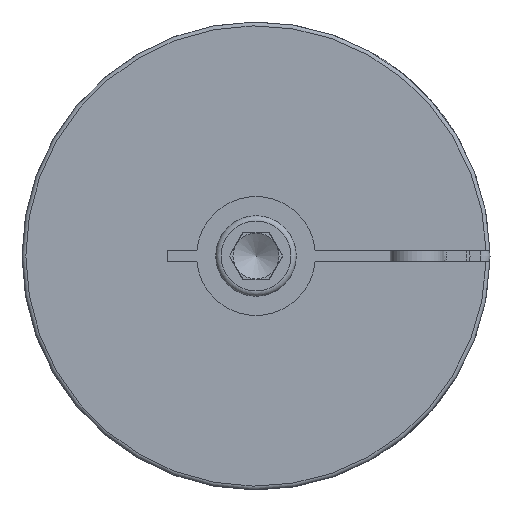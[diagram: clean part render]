
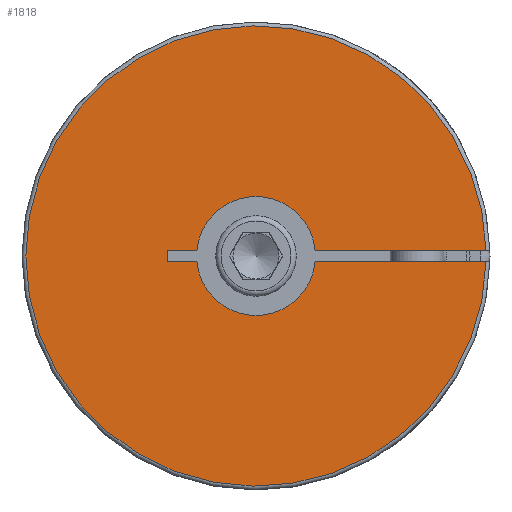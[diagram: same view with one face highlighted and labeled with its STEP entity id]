
A CAD part, left-side view. The second image highlights one B-rep face of the part: STEP entity #1818.
In plain terms, the highlighted planar face has unit normal (-1, 0, 0).
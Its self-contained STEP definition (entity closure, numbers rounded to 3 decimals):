
#134=PLANE('',#2059);
#221=LINE('',#3207,#323);
#224=LINE('',#3213,#326);
#226=LINE('',#3218,#328);
#230=LINE('',#3241,#332);
#231=LINE('',#3245,#333);
#323=VECTOR('',#2567,1000.);
#326=VECTOR('',#2572,1000.);
#328=VECTOR('',#2576,1000.);
#332=VECTOR('',#2604,1000.);
#333=VECTOR('',#2607,1000.);
#720=ORIENTED_EDGE('',*,*,#985,.F.);
#721=ORIENTED_EDGE('',*,*,#986,.T.);
#722=ORIENTED_EDGE('',*,*,#987,.F.);
#723=ORIENTED_EDGE('',*,*,#980,.F.);
#724=ORIENTED_EDGE('',*,*,#969,.F.);
#725=ORIENTED_EDGE('',*,*,#972,.F.);
#726=ORIENTED_EDGE('',*,*,#974,.F.);
#727=ORIENTED_EDGE('',*,*,#984,.F.);
#969=EDGE_CURVE('',#1149,#1147,#221,.T.);
#972=EDGE_CURVE('',#1151,#1149,#224,.T.);
#974=EDGE_CURVE('',#1153,#1151,#226,.T.);
#980=EDGE_CURVE('',#1147,#1157,#1272,.T.);
#984=EDGE_CURVE('',#1160,#1153,#1275,.T.);
#985=EDGE_CURVE('',#1161,#1160,#230,.T.);
#986=EDGE_CURVE('',#1161,#1162,#1276,.T.);
#987=EDGE_CURVE('',#1157,#1162,#231,.T.);
#1147=VERTEX_POINT('',#3202);
#1149=VERTEX_POINT('',#3206);
#1151=VERTEX_POINT('',#3212);
#1153=VERTEX_POINT('',#3217);
#1157=VERTEX_POINT('',#3228);
#1160=VERTEX_POINT('',#3238);
#1161=VERTEX_POINT('',#3242);
#1162=VERTEX_POINT('',#3244);
#1272=CIRCLE('',#2053,15.5);
#1275=CIRCLE('',#2058,15.5);
#1276=CIRCLE('',#2060,60.);
#1464=EDGE_LOOP('',(#720,#721,#722,#723,#724,#725,#726,#727));
#1664=FACE_BOUND('',#1464,.T.);
#1818=ADVANCED_FACE('',(#1664),#134,.T.);
#2053=AXIS2_PLACEMENT_3D('',#3230,#2589,#2590);
#2058=AXIS2_PLACEMENT_3D('',#3239,#2600,#2601);
#2059=AXIS2_PLACEMENT_3D('',#3240,#2602,#2603);
#2060=AXIS2_PLACEMENT_3D('',#3243,#2605,#2606);
#2567=DIRECTION('',(0.,-1.,0.));
#2572=DIRECTION('',(0.,0.,-1.));
#2576=DIRECTION('',(0.,1.,0.));
#2589=DIRECTION('',(-1.,0.,0.));
#2590=DIRECTION('',(0.,1.,0.));
#2600=DIRECTION('',(-1.,0.,0.));
#2601=DIRECTION('',(0.,1.,0.));
#2602=DIRECTION('',(-1.,0.,0.));
#2603=DIRECTION('',(0.,1.,0.));
#2604=DIRECTION('',(0.,1.,0.));
#2605=DIRECTION('',(-1.,0.,0.));
#2606=DIRECTION('',(0.,1.,0.));
#2607=DIRECTION('',(0.,-1.,0.));
#3202=CARTESIAN_POINT('',(0.,15.427,-1.5));
#3206=CARTESIAN_POINT('',(0.,23.,-1.5));
#3207=CARTESIAN_POINT('',(0.,23.,-1.5));
#3212=CARTESIAN_POINT('',(0.,23.,1.5));
#3213=CARTESIAN_POINT('',(0.,23.,-1.5));
#3217=CARTESIAN_POINT('',(0.,15.427,1.5));
#3218=CARTESIAN_POINT('',(0.,23.,1.5));
#3228=CARTESIAN_POINT('',(0.,-15.427,-1.5));
#3230=CARTESIAN_POINT('',(0.,0.,0.));
#3238=CARTESIAN_POINT('',(0.,-15.427,1.5));
#3239=CARTESIAN_POINT('',(0.,0.,0.));
#3240=CARTESIAN_POINT('',(0.,15.5,0.));
#3241=CARTESIAN_POINT('',(0.,23.,1.5));
#3242=CARTESIAN_POINT('',(0.,-59.981,1.5));
#3243=CARTESIAN_POINT('',(0.,0.,0.));
#3244=CARTESIAN_POINT('',(0.,-59.981,-1.5));
#3245=CARTESIAN_POINT('',(0.,23.,-1.5));
